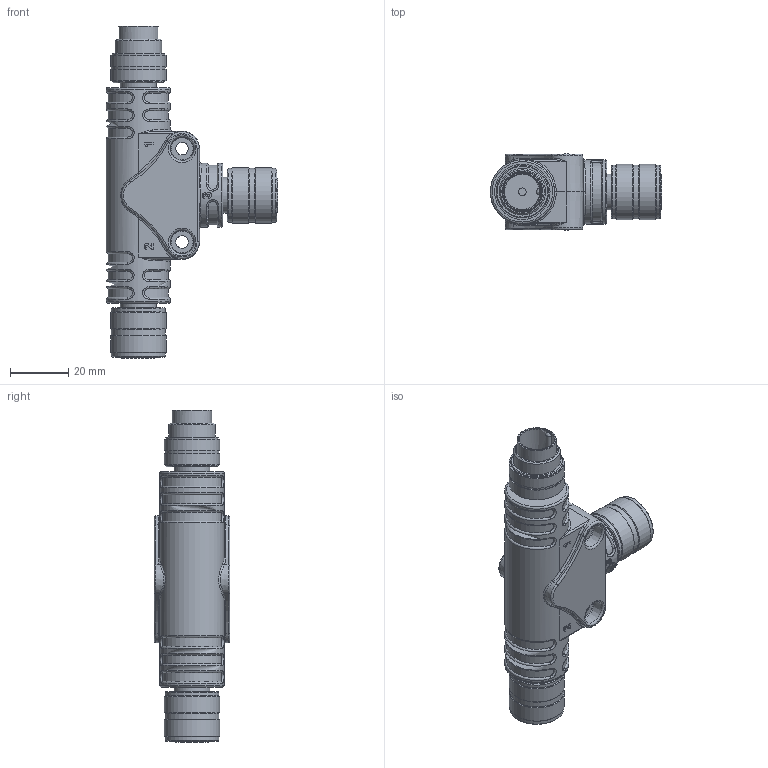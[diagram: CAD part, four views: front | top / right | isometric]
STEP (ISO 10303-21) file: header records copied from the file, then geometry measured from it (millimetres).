
FILE_DESCRIPTION((''),'2;1');
FILE_NAME('C:\TurckZip\BSM-2BKM.stp','2011-06-20T10:03:32',('IKOROL'),(''),'Autodesk Inventor 2010','Autodesk Inventor 2010','');
FILE_SCHEMA(('CONFIG_CONTROL_DESIGN'));
Length unit declared in the file: millimetre
Products named in the file (1): Part1
Bounding box: 58.8 x 26 x 113.9 mm (x, y, z)
Volume: 55337.5 mm3; surface area: 18065.9 mm2
Topology: 1 solids, 1 shells, 744 faces, 2047 edges, 1339 vertices
Faces by surface type: plane 282, cylinder 259, bspline 124, torus 45, cone 34
Full cylindrical faces by diameter (mm): 2.6 x1, 11.6 x2, 12.3 x3, 12.4 x3, 13.5 x3, 13.6 x3, 14.1 x3, 14.4 x2, 14.5 x3, 16 x1, 18 x2, 18.5 x7, 19 x6, 22 x2
Entity records: 27809 total; most frequent: CARTESIAN_POINT 8498, ORIENTED_EDGE 3998, DIRECTION 3756, EDGE_CURVE 1999, AXIS2_PLACEMENT_3D 1390, VERTEX_POINT 1310, VECTOR 976, LINE 976
